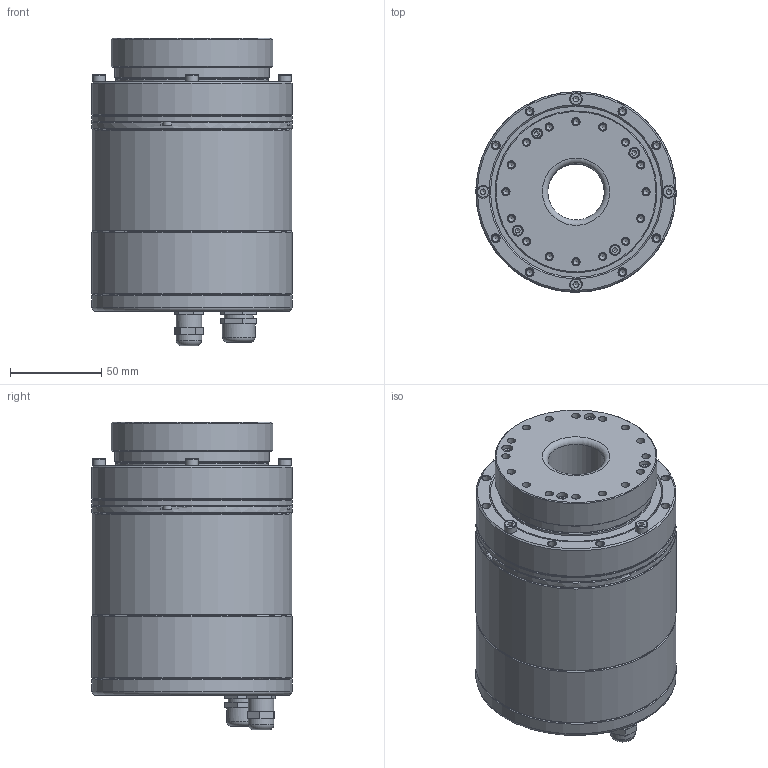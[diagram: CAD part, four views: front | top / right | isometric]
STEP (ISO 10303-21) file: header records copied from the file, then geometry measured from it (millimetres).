
FILE_DESCRIPTION( ('This file contains a STEP AP42 implementation' ,'as created by ZW3D STEP Interface translator.') ,'2;1' );
FILE_NAME( 'MIS25B壽誹耀郪.stp' ,'24 613. 85134', (''), ('ZWCAD Software Co.'), 'Version 1.0', 'ZW3D to STEP translator', '' );
FILE_SCHEMA(('AUTOMOTIVE_DESIGN { 1 0 10303 214 1 1 1 1 }'));
Length unit declared in the file: millimetre
Products named in the file (1): 0
Bounding box: 110 x 110 x 169 mm (x, y, z)
Volume: 593944.9 mm3; surface area: 300813.9 mm2
Topology: 53 solids, 55 shells, 1814 faces, 4207 edges, 2622 vertices
Faces by surface type: plane 624, cylinder 539, cone 500, torus 133, bspline 18
Full cylindrical faces by diameter (mm): 1.25 x8, 2 x2, 2.05 x24, 2.5 x63, 2.675 x1, 2.874 x8, 3 x35, 3.3 x40, 3.4 x20, 3.5 x16, 3.8 x1, 4 x4, 4.5 x68, 5.5 x26, 6 x12, 6.5 x4, 7 x4, 8 x6, 12 x3, 14 x2, 16 x4, 18 x1, 31 x2, 31.5 x1, 35 x2, 36 x2, 41.5 x1, 42 x1, 42.5 x1, 43 x1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
Entity records: 56272 total; most frequent: CARTESIAN_POINT 10975, DIRECTION 9415, ORIENTED_EDGE 8156, EDGE_CURVE 4078, AXIS2_PLACEMENT_3D 3805, VERTEX_POINT 2594, EDGE_LOOP 2278, CIRCLE 2008
